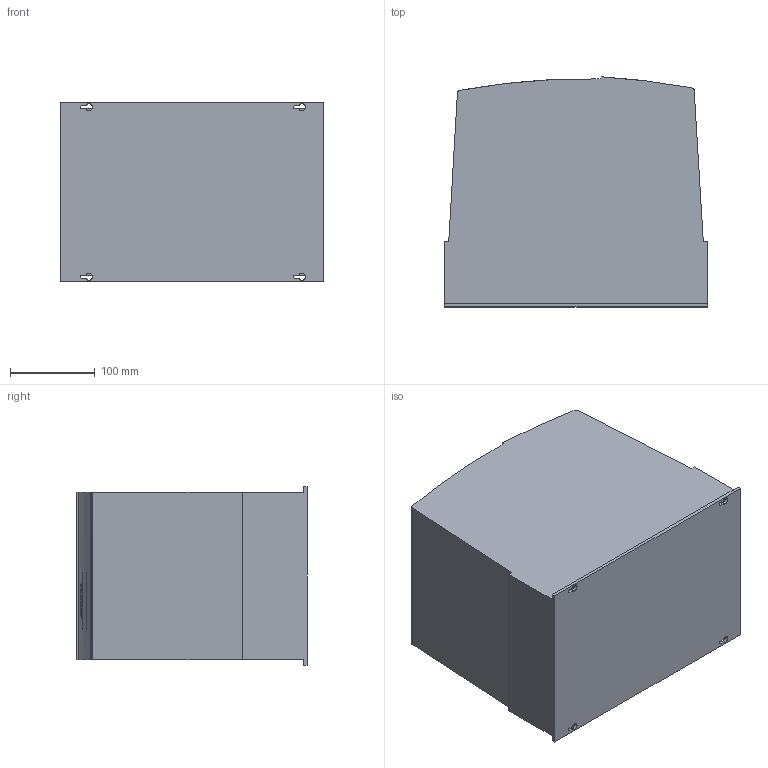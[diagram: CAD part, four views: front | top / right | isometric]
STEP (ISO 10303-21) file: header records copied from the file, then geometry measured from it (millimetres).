
FILE_DESCRIPTION (( 'STEP AP214' ), '1' );
FILE_NAME ('P2 S3 IP66 NS1.STEP', '2017-08-15T12:56:20', ( '' ), ( '' ), 'SwSTEP 2.0', 'SolidWorks 2017', '' );
FILE_SCHEMA (( 'AUTOMOTIVE_DESIGN' ));
Length unit declared in the file: millimetre
Products named in the file (1): P2 S3 IP66 NS1
Bounding box: 310 x 271.23 x 211 mm (x, y, z)
Volume: 15414547.7 mm3; surface area: 385306.1 mm2
Topology: 1 solids, 1 shells, 189 faces, 485 edges, 318 vertices
Faces by surface type: plane 95, cylinder 83, bspline 11
Entity records: 6537 total; most frequent: CARTESIAN_POINT 2128, ORIENTED_EDGE 970, DIRECTION 819, EDGE_CURVE 485, VERTEX_POINT 318, AXIS2_PLACEMENT_3D 285, VECTOR 249, LINE 249
